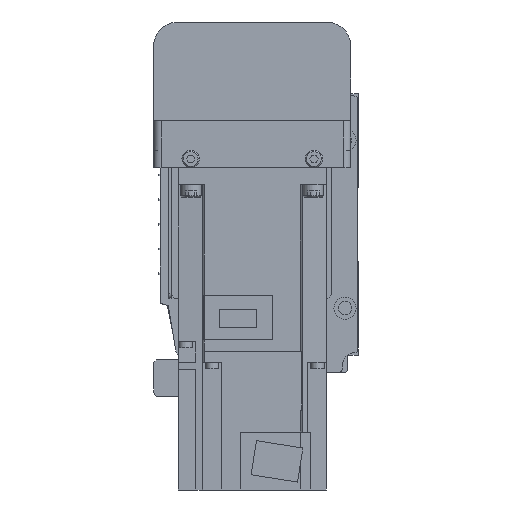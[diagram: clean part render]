
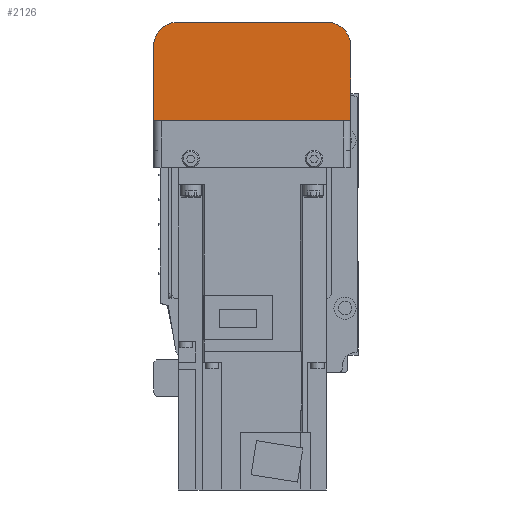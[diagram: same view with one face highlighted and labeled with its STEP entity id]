
A CAD part, left-side view. The second image highlights one B-rep face of the part: STEP entity #2126.
In plain terms, the highlighted planar face has unit normal (-1, 0, 0).
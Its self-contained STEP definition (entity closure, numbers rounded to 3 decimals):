
#2126 = ADVANCED_FACE( '', ( #4425 ), #4426, .F. );
#4425 = FACE_OUTER_BOUND( '', #6793, .T. );
#4426 = PLANE( '', #6794 );
#6793 = EDGE_LOOP( '', ( #12625, #12626, #12627, #12628, #12629, #12630 ) );
#6794 = AXIS2_PLACEMENT_3D( '', #12631, #12632, #12633 );
#12625 = ORIENTED_EDGE( '', *, *, #15689, .F. );
#12626 = ORIENTED_EDGE( '', *, *, #15557, .F. );
#12627 = ORIENTED_EDGE( '', *, *, #15789, .F. );
#12628 = ORIENTED_EDGE( '', *, *, #14163, .F. );
#12629 = ORIENTED_EDGE( '', *, *, #14717, .F. );
#12630 = ORIENTED_EDGE( '', *, *, #13678, .F. );
#12631 = CARTESIAN_POINT( '', ( -192., 37., 7. ) );
#12632 = DIRECTION( '', ( 1., 0., 0. ) );
#12633 = DIRECTION( '', ( 0., 0., -1. ) );
#13678 = EDGE_CURVE( '', #16311, #16313, #16314, .T. );
#14163 = EDGE_CURVE( '', #17144, #17146, #17147, .T. );
#14717 = EDGE_CURVE( '', #16313, #17144, #18018, .T. );
#15557 = EDGE_CURVE( '', #19162, #17758, #19164, .T. );
#15689 = EDGE_CURVE( '', #17758, #16311, #19322, .T. );
#15789 = EDGE_CURVE( '', #17146, #19162, #19432, .T. );
#16311 = VERTEX_POINT( '', #20086 );
#16313 = VERTEX_POINT( '', #20089 );
#16314 = LINE( '', #20090, #20091 );
#17144 = VERTEX_POINT( '', #21201 );
#17146 = VERTEX_POINT( '', #21204 );
#17147 = LINE( '', #21205, #21206 );
#17758 = VERTEX_POINT( '', #22033 );
#18018 = CIRCLE( '', #22378, 10. );
#19162 = VERTEX_POINT( '', #23941 );
#19164 = LINE( '', #23944, #23945 );
#19322 = LINE( '', #24152, #24153 );
#19432 = CIRCLE( '', #24288, 10. );
#20086 = CARTESIAN_POINT( '', ( -192., -40., -12.1 ) );
#20089 = CARTESIAN_POINT( '', ( -192., -40., -42. ) );
#20090 = CARTESIAN_POINT( '', ( -192., -40., -12.1 ) );
#20091 = VECTOR( '', #24720, 1000. );
#21201 = CARTESIAN_POINT( '', ( -192., -30., -52. ) );
#21204 = CARTESIAN_POINT( '', ( -192., 30., -52. ) );
#21205 = CARTESIAN_POINT( '', ( -192., -30., -52. ) );
#21206 = VECTOR( '', #25329, 1000. );
#22033 = CARTESIAN_POINT( '', ( -192., 40., -12.1 ) );
#22378 = AXIS2_PLACEMENT_3D( '', #26009, #26010, #26011 );
#23941 = CARTESIAN_POINT( '', ( -192., 40., -42. ) );
#23944 = CARTESIAN_POINT( '', ( -192., 40., -42. ) );
#23945 = VECTOR( '', #26966, 1000. );
#24152 = CARTESIAN_POINT( '', ( -192., 50., -12.1 ) );
#24153 = VECTOR( '', #27082, 1000. );
#24288 = AXIS2_PLACEMENT_3D( '', #27153, #27154, #27155 );
#24720 = DIRECTION( '', ( 0., 0., -1. ) );
#25329 = DIRECTION( '', ( 0., 1., 0. ) );
#26009 = CARTESIAN_POINT( '', ( -192., -30., -42. ) );
#26010 = DIRECTION( '', ( 1., 0., 0. ) );
#26011 = DIRECTION( '', ( 0., 0., -1. ) );
#26966 = DIRECTION( '', ( 0., 0., 1. ) );
#27082 = DIRECTION( '', ( 0., -1., 0. ) );
#27153 = CARTESIAN_POINT( '', ( -192., 30., -42. ) );
#27154 = DIRECTION( '', ( 1., 0., 0. ) );
#27155 = DIRECTION( '', ( 0., 0., -1. ) );
